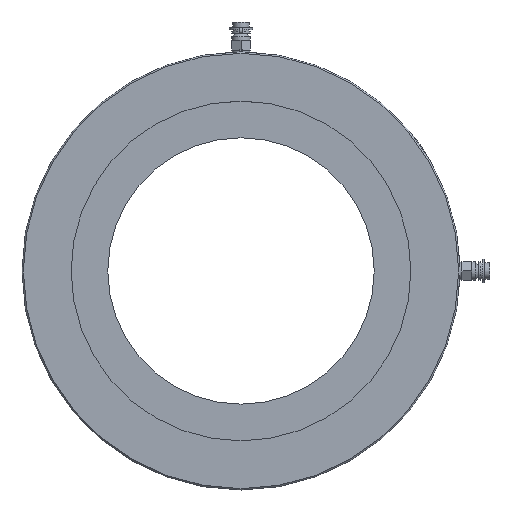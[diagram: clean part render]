
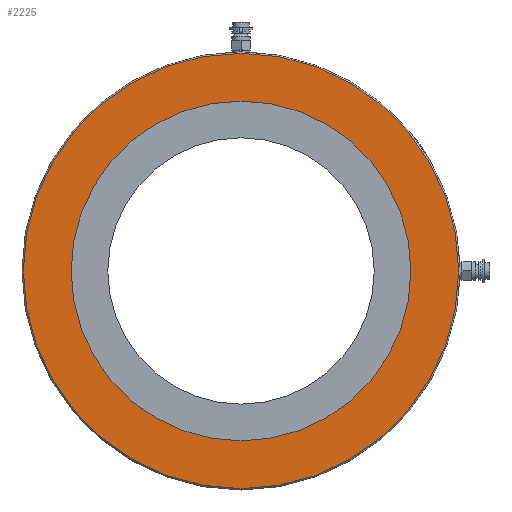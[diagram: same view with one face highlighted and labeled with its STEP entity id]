
A CAD part, top view. The second image highlights one B-rep face of the part: STEP entity #2225.
In plain terms, the highlighted planar face has unit normal (0, 0, 1).
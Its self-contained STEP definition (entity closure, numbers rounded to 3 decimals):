
#2191=CARTESIAN_POINT('',(164.0,0.,9.0));
#2192=VERTEX_POINT('',#2191);
#2193=CARTESIAN_POINT('',(0.0,0.0,9.0));
#2194=DIRECTION('',(0.0,0.0,-1.0));
#2195=DIRECTION('',(-1.0,0.0,0.0));
#2196=AXIS2_PLACEMENT_3D('',#2193,#2194,#2195);
#2197=CIRCLE('',#2196,164.0);
#2198=EDGE_CURVE('',#2192,#2192,#2197,.T.);
#2206=CARTESIAN_POINT('',(0.0,0.0,9.0));
#2207=DIRECTION('',(0.0,0.0,-1.0));
#2208=DIRECTION('',(-1.0,0.0,0.0));
#2209=AXIS2_PLACEMENT_3D('',#2206,#2207,#2208);
#2210=PLANE('',#2209);
#2211=ORIENTED_EDGE('',*,*,#2198,.F.);
#2212=EDGE_LOOP('',(#2211));
#2213=FACE_OUTER_BOUND('',#2212,.T.);
#2214=CARTESIAN_POINT('',(128.0,0.,9.0));
#2215=VERTEX_POINT('',#2214);
#2216=CARTESIAN_POINT('',(0.0,0.0,9.0));
#2217=DIRECTION('',(0.0,0.0,-1.0));
#2218=DIRECTION('',(-1.0,0.0,0.0));
#2219=AXIS2_PLACEMENT_3D('',#2216,#2217,#2218);
#2220=CIRCLE('',#2219,128.0);
#2221=EDGE_CURVE('',#2215,#2215,#2220,.T.);
#2222=ORIENTED_EDGE('',*,*,#2221,.T.);
#2223=EDGE_LOOP('',(#2222));
#2224=FACE_BOUND('',#2223,.T.);
#2225=ADVANCED_FACE('',(#2213,#2224),#2210,.F.);
